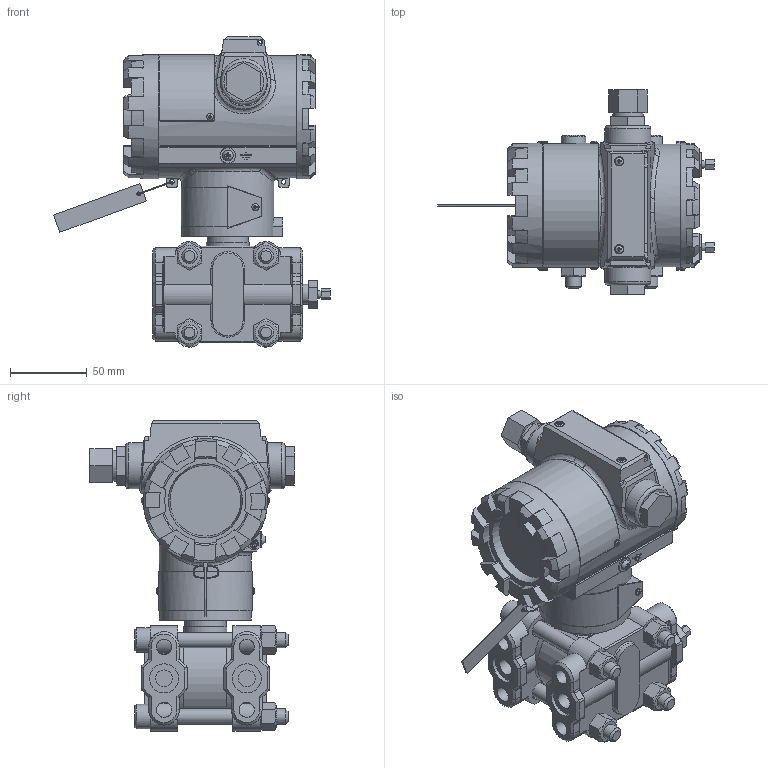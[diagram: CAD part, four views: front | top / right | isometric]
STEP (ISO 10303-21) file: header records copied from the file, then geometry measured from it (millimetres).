
FILE_DESCRIPTION(('STEP AP203'), '1');
FILE_NAME('Äèôôåðåíöèàëüíîå äàâëåíèå - ÝÌÈÑ-ÁÀÐ 143', '', ('UNSPECIFIED'), ('UNSPECIFIED'), 'C3D Converter', 'C3D Toolkit', '');
FILE_SCHEMA(('CONFIG_CONTROL_DESIGN'));
Length unit declared in the file: millimetre
Bounding box: 180.73 x 133.5 x 202.65 mm (x, y, z)
Volume: 443421.3 mm3; surface area: 208454.4 mm2
Topology: 12 solids, 13 shells, 1433 faces, 3686 edges, 2360 vertices
Faces by surface type: plane 769, cylinder 394, cone 117, bspline 100, torus 45, sphere 7, extrusion 1
Full cylindrical faces by diameter (mm): 1.6 x4, 2 x4, 2.5 x7, 2.8 x1, 3 x7, 3.165 x4, 3.8 x3, 4 x7, 4.5 x4, 5 x4, 5.5 x2, 6 x2, 8 x4, 10 x17, 11 x2, 12 x8, 13 x2, 15 x1, 16 x4, 19 x4, 20 x2, 27 x1, 28 x1, 30 x3, 51.823 x1, 52.891 x1, 55 x1, 56 x3, 58 x2, 58.714 x2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
Entity records: 75183 total; most frequent: CARTESIAN_POINT 30276, ORIENTED_EDGE 6973, DIRECTION 6600, EDGE_CURVE 3493, AXIS2_PLACEMENT_3D 2416, VERTEX_POINT 2347, VECTOR 1768, LINE 1767
